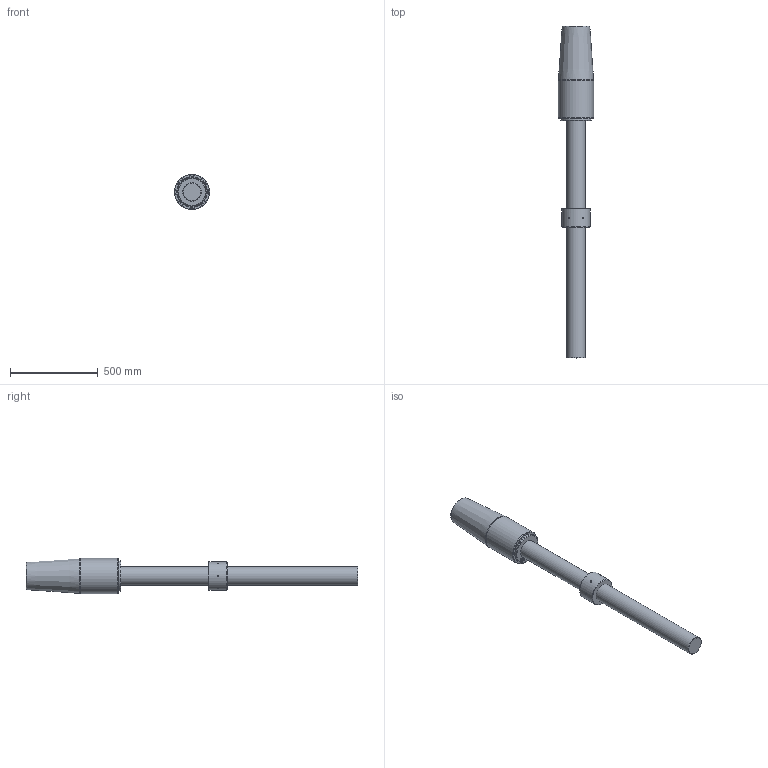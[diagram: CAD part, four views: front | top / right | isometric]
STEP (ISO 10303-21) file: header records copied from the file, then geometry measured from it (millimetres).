
FILE_DESCRIPTION(/* description */ (''),/* implementation_level */ '2;1');
FILE_NAME(/* name */ 'D:\Clienti\Redaelli (inventor)\CYB\STEP\Arrangement\CYB068 52 061 0.stp',/* time_stamp */ '2021-05-08T14:45:42+02:00',/* author */ ('fabri'),/* organization */ (''),/* preprocessor_version */ 'ST-DEVELOPER v16.13',/* originating_system */ 'Autodesk Inventor 2018',/* authorisation */ '');
FILE_SCHEMA (('AUTOMOTIVE_DESIGN { 1 0 10303 214 3 1 1 }'));
Length unit declared in the file: millimetre
Products named in the file (5): CYB068 52 061 0; RNT052 41 051 0_ROD; RNT052 41 051 0_ROD_1; CCY021-51-061-0_BUSH; CCY021-51-061-0
Assembly tree (4 placements, depth 2):
  CYB068 52 061 0
    RNT052 41 051 0_ROD
    RNT052 41 051 0_ROD_1
    CCY021-51-061-0_BUSH
    CCY021-51-061-0
Bounding box: 200 x 1891 x 200 mm (x, y, z)
Volume: 30405198 mm3; surface area: 1132982.5 mm2
Topology: 4 solids, 4 shells, 739 faces, 1971 edges, 1309 vertices
Faces by surface type: bspline 417, plane 284, cylinder 18, cone 16, torus 4
Full cylindrical faces by diameter (mm): 8 x6, 8.376 x3, 98.505 x2, 105 x1, 106 x1, 140 x1, 150 x1, 160 x1, 175 x1, 200 x1
Entity records: 25133 total; most frequent: CARTESIAN_POINT 9615, ORIENTED_EDGE 3844, EDGE_CURVE 1922, DIRECTION 1782, VERTEX_POINT 1299, LINE 1034, VECTOR 1034, EDGE_LOOP 851
